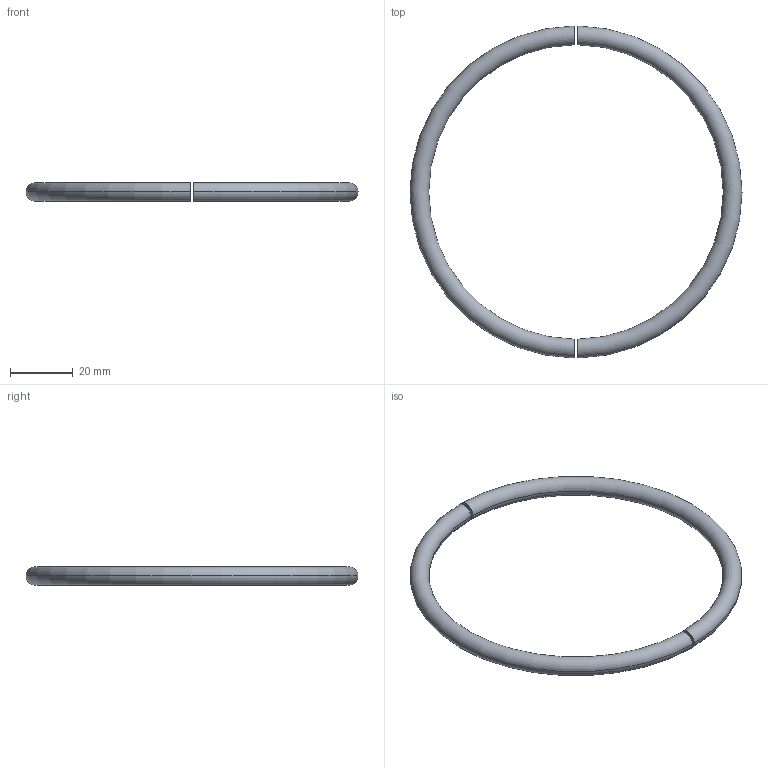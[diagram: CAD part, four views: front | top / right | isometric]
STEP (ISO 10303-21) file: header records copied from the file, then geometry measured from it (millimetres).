
FILE_DESCRIPTION(('CATIA V5 STEP Exchange','CAx-IF Rec.Pracs.--- Model Styling and Organization---1.4--- 2014-01-23','CAx-IF Rec.Pracs.---3D Tessellated Data Validation Properties---0.5---2014-09-14'),'2;1');
FILE_NAME('\\GSBFILE\data\URETIM\3D DATALAR\2016\KALIP ELEMANLARI\A KODLARI\A102-01\A102-01-100\A102-01-100.stp','2019-08-28T11:17:11+00:00',('none'),('none'),'CATIA Version 5-6 Release 2016 SP6 HF8','CATIA V5 STEP AP242','none');
FILE_SCHEMA(('AP242_MANAGED_MODEL_BASED_3D_ENGINEERING_MIM_LF {1 0 10303 442 1 1 4}'));
Length unit declared in the file: millimetre
Products named in the file (1): A102-01-100
Bounding box: 106 x 106 x 5.99 mm (x, y, z)
Volume: 8826.1 mm3; surface area: 5997.2 mm2
Topology: 2 solids, 2 shells, 8 faces, 12 edges, 8 vertices
Faces by surface type: torus 4, plane 4
Entity records: 243 total; most frequent: CARTESIAN_POINT 112, ORIENTED_EDGE 24, EDGE_CURVE 12, DIRECTION 10, AXIS2_PLACEMENT_3D 8, EDGE_LOOP 8, VERTEX_POINT 8, ADVANCED_FACE 8
